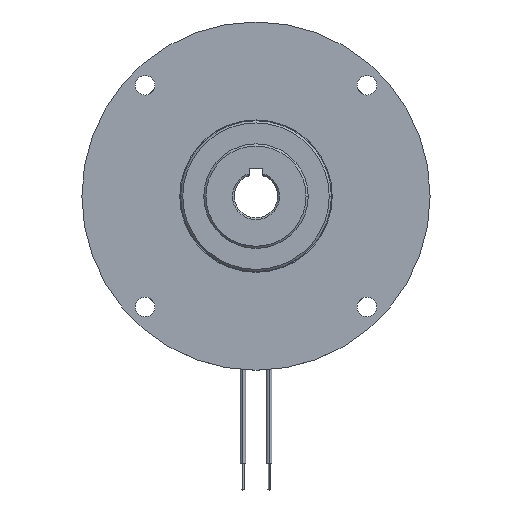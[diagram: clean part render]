
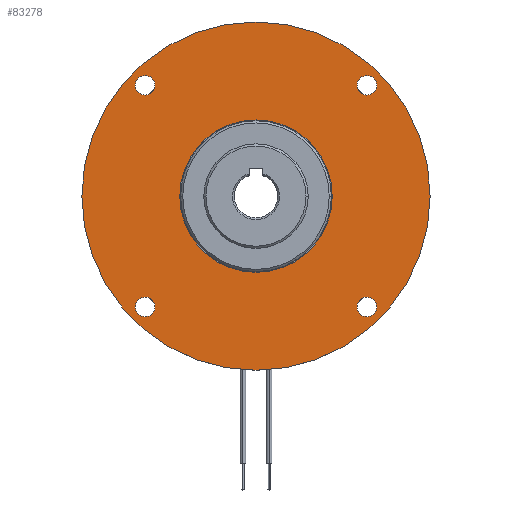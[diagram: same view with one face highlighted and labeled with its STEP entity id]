
A CAD part, top view. The second image highlights one B-rep face of the part: STEP entity #83278.
In plain terms, the highlighted planar face has unit normal (0, 0, 1).
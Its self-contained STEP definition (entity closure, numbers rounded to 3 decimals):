
#377 = CARTESIAN_POINT ( 'NONE',  ( -23.206, 25.456, 0. ) ) ;
#662 = VERTEX_POINT ( 'NONE', #40285 ) ;
#2146 = VERTEX_POINT ( 'NONE', #377 ) ;
#3183 = CARTESIAN_POINT ( 'NONE',  ( 25.456, -25.456, 0. ) ) ;
#3918 = AXIS2_PLACEMENT_3D ( 'NONE', #95884, #104593, #56171 ) ;
#5798 = AXIS2_PLACEMENT_3D ( 'NONE', #3183, #34254, #27686 ) ;
#6171 = VERTEX_POINT ( 'NONE', #77798 ) ;
#6944 = AXIS2_PLACEMENT_3D ( 'NONE', #57427, #90659, #16124 ) ;
#7241 = CARTESIAN_POINT ( 'NONE',  ( 0., 40., 0. ) ) ;
#7582 = VERTEX_POINT ( 'NONE', #97207 ) ;
#9544 = CIRCLE ( 'NONE', #103340, 40. ) ;
#10252 = VERTEX_POINT ( 'NONE', #96006 ) ;
#10289 = CARTESIAN_POINT ( 'NONE',  ( -25.456, -25.456, 0. ) ) ;
#10339 = DIRECTION ( 'NONE',  ( 0., 0., -1. ) ) ;
#11401 = EDGE_LOOP ( 'NONE', ( #35104, #14286 ) ) ;
#11515 = AXIS2_PLACEMENT_3D ( 'NONE', #7241, #40469, #32305 ) ;
#11639 = EDGE_CURVE ( 'NONE', #67126, #95178, #73296, .T. ) ;
#11967 = ORIENTED_EDGE ( 'NONE', *, *, #104626, .T. ) ;
#12144 = CIRCLE ( 'NONE', #6944, 17.5 ) ;
#12201 = AXIS2_PLACEMENT_3D ( 'NONE', #86597, #88750, #103970 ) ;
#14286 = ORIENTED_EDGE ( 'NONE', *, *, #76257, .T. ) ;
#14833 = CARTESIAN_POINT ( 'NONE',  ( 0., 0., 0. ) ) ;
#14842 = CARTESIAN_POINT ( 'NONE',  ( 40., 0., 0. ) ) ;
#16124 = DIRECTION ( 'NONE',  ( -1., 0., 0. ) ) ;
#17610 = CARTESIAN_POINT ( 'NONE',  ( 23.206, 25.456, 0. ) ) ;
#18559 = DIRECTION ( 'NONE',  ( -1., 0., 0. ) ) ;
#19382 = AXIS2_PLACEMENT_3D ( 'NONE', #59616, #66222, #67287 ) ;
#22310 = CARTESIAN_POINT ( 'NONE',  ( -17.5, 0., 0. ) ) ;
#25185 = FACE_BOUND ( 'NONE', #74235, .T. ) ;
#26541 = EDGE_CURVE ( 'NONE', #95178, #67126, #9544, .T. ) ;
#27686 = DIRECTION ( 'NONE',  ( -1., 0., 0. ) ) ;
#31437 = EDGE_CURVE ( 'NONE', #41798, #7582, #32489, .T. ) ;
#31787 = EDGE_LOOP ( 'NONE', ( #75599, #11967 ) ) ;
#32305 = DIRECTION ( 'NONE',  ( -1., 0., 0. ) ) ;
#32489 = CIRCLE ( 'NONE', #53263, 2.25 ) ;
#33869 = ORIENTED_EDGE ( 'NONE', *, *, #68223, .T. ) ;
#34254 = DIRECTION ( 'NONE',  ( 0., 0., -1. ) ) ;
#34284 = DIRECTION ( 'NONE',  ( -1., 0., 0. ) ) ;
#34798 = DIRECTION ( 'NONE',  ( 0., 0., -1. ) ) ;
#35104 = ORIENTED_EDGE ( 'NONE', *, *, #38150, .T. ) ;
#35342 = DIRECTION ( 'NONE',  ( -1., 0., 0. ) ) ;
#36862 = ORIENTED_EDGE ( 'NONE', *, *, #48412, .T. ) ;
#38150 = EDGE_CURVE ( 'NONE', #72116, #662, #97782, .T. ) ;
#39851 = DIRECTION ( 'NONE',  ( -1., 0., 0. ) ) ;
#40285 = CARTESIAN_POINT ( 'NONE',  ( 27.706, 25.456, 0. ) ) ;
#40469 = DIRECTION ( 'NONE',  ( 0., 0., -1. ) ) ;
#40997 = FACE_BOUND ( 'NONE', #78220, .T. ) ;
#41798 = VERTEX_POINT ( 'NONE', #52853 ) ;
#42276 = CIRCLE ( 'NONE', #76981, 2.25 ) ;
#42919 = ORIENTED_EDGE ( 'NONE', *, *, #11639, .F. ) ;
#45221 = CIRCLE ( 'NONE', #12201, 2.25 ) ;
#46973 = VERTEX_POINT ( 'NONE', #62770 ) ;
#47323 = EDGE_CURVE ( 'NONE', #6171, #2146, #45221, .T. ) ;
#48147 = DIRECTION ( 'NONE',  ( 0., 0., -1. ) ) ;
#48412 = EDGE_CURVE ( 'NONE', #55593, #46973, #69093, .T. ) ;
#49001 = EDGE_CURVE ( 'NONE', #2146, #6171, #74380, .T. ) ;
#49189 = ORIENTED_EDGE ( 'NONE', *, *, #49001, .T. ) ;
#49679 = PLANE ( 'NONE',  #11515 ) ;
#50673 = CARTESIAN_POINT ( 'NONE',  ( -40., 0., 0. ) ) ;
#52611 = CIRCLE ( 'NONE', #3918, 2.25 ) ;
#52853 = CARTESIAN_POINT ( 'NONE',  ( -27.706, -25.456, 0. ) ) ;
#53263 = AXIS2_PLACEMENT_3D ( 'NONE', #98030, #105136, #39851 ) ;
#55593 = VERTEX_POINT ( 'NONE', #97555 ) ;
#55623 = DIRECTION ( 'NONE',  ( -1., 0., 0. ) ) ;
#56171 = DIRECTION ( 'NONE',  ( -1., 0., 0. ) ) ;
#56739 = FACE_BOUND ( 'NONE', #11401, .T. ) ;
#57427 = CARTESIAN_POINT ( 'NONE',  ( 0., 0., 0. ) ) ;
#57561 = EDGE_CURVE ( 'NONE', #58544, #10252, #12144, .T. ) ;
#58544 = VERTEX_POINT ( 'NONE', #22310 ) ;
#59240 = DIRECTION ( 'NONE',  ( 0., 0., -1. ) ) ;
#59286 = CARTESIAN_POINT ( 'NONE',  ( 0., 0., 0. ) ) ;
#59616 = CARTESIAN_POINT ( 'NONE',  ( 0., 0., 0. ) ) ;
#62770 = CARTESIAN_POINT ( 'NONE',  ( 23.206, -25.456, 0. ) ) ;
#64792 = AXIS2_PLACEMENT_3D ( 'NONE', #85398, #59240, #34284 ) ;
#65616 = AXIS2_PLACEMENT_3D ( 'NONE', #98690, #48147, #100278 ) ;
#65894 = EDGE_LOOP ( 'NONE', ( #42919, #102157 ) ) ;
#66222 = DIRECTION ( 'NONE',  ( 0., 0., -1. ) ) ;
#67126 = VERTEX_POINT ( 'NONE', #50673 ) ;
#67287 = DIRECTION ( 'NONE',  ( -1., 0., 0. ) ) ;
#68223 = EDGE_CURVE ( 'NONE', #7582, #41798, #42276, .T. ) ;
#69093 = CIRCLE ( 'NONE', #65616, 2.25 ) ;
#72116 = VERTEX_POINT ( 'NONE', #17610 ) ;
#73296 = CIRCLE ( 'NONE', #19382, 40. ) ;
#74235 = EDGE_LOOP ( 'NONE', ( #74403, #33869 ) ) ;
#74380 = CIRCLE ( 'NONE', #93442, 2.25 ) ;
#74403 = ORIENTED_EDGE ( 'NONE', *, *, #31437, .T. ) ;
#75599 = ORIENTED_EDGE ( 'NONE', *, *, #57561, .T. ) ;
#76257 = EDGE_CURVE ( 'NONE', #662, #72116, #52611, .T. ) ;
#76625 = EDGE_CURVE ( 'NONE', #46973, #55593, #90913, .T. ) ;
#76981 = AXIS2_PLACEMENT_3D ( 'NONE', #10289, #34798, #35342 ) ;
#77798 = CARTESIAN_POINT ( 'NONE',  ( -27.706, 25.456, 0. ) ) ;
#78220 = EDGE_LOOP ( 'NONE', ( #103040, #36862 ) ) ;
#82350 = FACE_OUTER_BOUND ( 'NONE', #65894, .T. ) ;
#83278 = ADVANCED_FACE ( 'NONE', ( #56739, #40997, #25185, #99686, #82350, #106271 ), #49679, .F. ) ;
#85398 = CARTESIAN_POINT ( 'NONE',  ( 25.456, 25.456, 0. ) ) ;
#86597 = CARTESIAN_POINT ( 'NONE',  ( -25.456, 25.456, 0. ) ) ;
#87033 = AXIS2_PLACEMENT_3D ( 'NONE', #14833, #104580, #55623 ) ;
#88750 = DIRECTION ( 'NONE',  ( 0., 0., -1. ) ) ;
#90659 = DIRECTION ( 'NONE',  ( 0., 0., -1. ) ) ;
#90913 = CIRCLE ( 'NONE', #5798, 2.25 ) ;
#92005 = CARTESIAN_POINT ( 'NONE',  ( -25.456, 25.456, 0. ) ) ;
#93442 = AXIS2_PLACEMENT_3D ( 'NONE', #92005, #101227, #18559 ) ;
#93589 = ORIENTED_EDGE ( 'NONE', *, *, #47323, .T. ) ;
#95178 = VERTEX_POINT ( 'NONE', #14842 ) ;
#95884 = CARTESIAN_POINT ( 'NONE',  ( 25.456, 25.456, 0. ) ) ;
#96006 = CARTESIAN_POINT ( 'NONE',  ( 17.5, 0., 0. ) ) ;
#97207 = CARTESIAN_POINT ( 'NONE',  ( -23.206, -25.456, 0. ) ) ;
#97555 = CARTESIAN_POINT ( 'NONE',  ( 27.706, -25.456, 0. ) ) ;
#97782 = CIRCLE ( 'NONE', #64792, 2.25 ) ;
#98030 = CARTESIAN_POINT ( 'NONE',  ( -25.456, -25.456, 0. ) ) ;
#98690 = CARTESIAN_POINT ( 'NONE',  ( 25.456, -25.456, 0. ) ) ;
#99513 = EDGE_LOOP ( 'NONE', ( #93589, #49189 ) ) ;
#99686 = FACE_BOUND ( 'NONE', #99513, .T. ) ;
#100278 = DIRECTION ( 'NONE',  ( -1., 0., 0. ) ) ;
#101227 = DIRECTION ( 'NONE',  ( 0., 0., -1. ) ) ;
#101737 = DIRECTION ( 'NONE',  ( -1., 0., 0. ) ) ;
#102157 = ORIENTED_EDGE ( 'NONE', *, *, #26541, .F. ) ;
#103040 = ORIENTED_EDGE ( 'NONE', *, *, #76625, .T. ) ;
#103340 = AXIS2_PLACEMENT_3D ( 'NONE', #59286, #10339, #101737 ) ;
#103970 = DIRECTION ( 'NONE',  ( -1., 0., 0. ) ) ;
#104580 = DIRECTION ( 'NONE',  ( 0., 0., -1. ) ) ;
#104593 = DIRECTION ( 'NONE',  ( 0., 0., -1. ) ) ;
#104626 = EDGE_CURVE ( 'NONE', #10252, #58544, #106131, .T. ) ;
#105136 = DIRECTION ( 'NONE',  ( 0., 0., -1. ) ) ;
#106131 = CIRCLE ( 'NONE', #87033, 17.5 ) ;
#106271 = FACE_BOUND ( 'NONE', #31787, .T. ) ;
